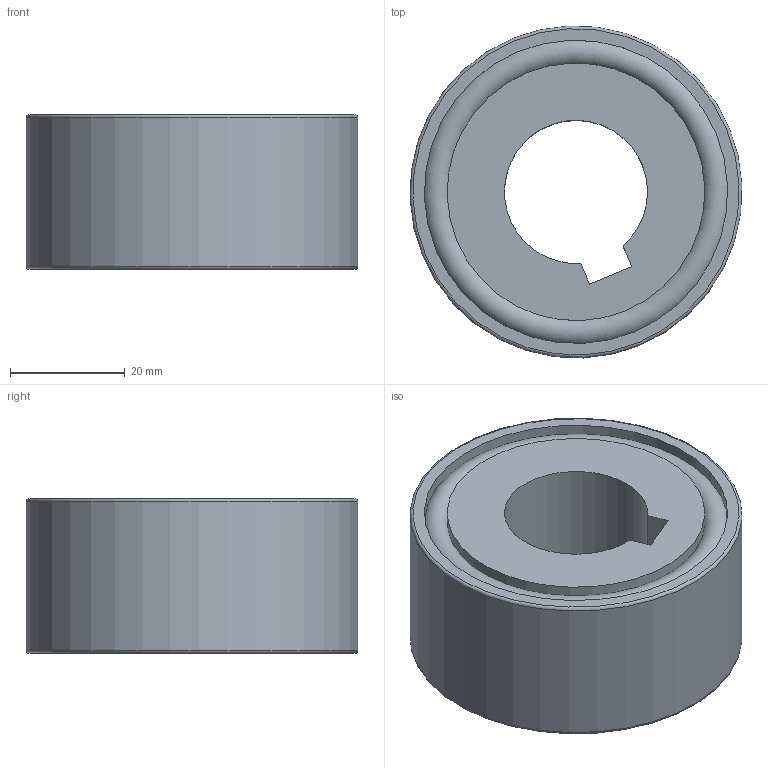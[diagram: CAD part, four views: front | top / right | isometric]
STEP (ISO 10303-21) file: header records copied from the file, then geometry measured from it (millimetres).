
FILE_DESCRIPTION(/* description */ (''),/* implementation_level */ '2;1');
FILE_NAME(/* name */ '300718 FN 453 M.stp',/* time_stamp */ '2016-11-24T16:11:07+01:00',/* author */ (''),/* organization */ (''),/* preprocessor_version */ 'ST-DEVELOPER v15',/* originating_system */ 'SIEMENS PLM Software NX 8.5',/* authorisation */ '');
FILE_SCHEMA (('CONFIG_CONTROL_DESIGN'));
Length unit declared in the file: millimetre
Products named in the file (3): ATE0000080_01; ATE0000131_01; ATE0000132_01
Assembly tree (2 placements, depth 2):
  ATE0000132_01
    ATE0000131_01
    ATE0000080_01
Bounding box: 57.94 x 57.94 x 27 mm (x, y, z)
Volume: 49500 mm3; surface area: 27187.4 mm2
Topology: 3 solids, 3 shells, 73 faces, 162 edges, 107 vertices
Faces by surface type: plane 47, cylinder 22, torus 4
Full cylindrical faces by diameter (mm): 45 x3, 49 x1, 50 x1, 51 x1, 52 x2, 53 x4, 58 x1
Entity records: 2192 total; most frequent: DIRECTION 350, CARTESIAN_POINT 312, ORIENTED_EDGE 272, AXIS2_PLACEMENT_3D 138, EDGE_CURVE 136, EDGE_LOOP 110, VERTEX_POINT 100, LINE 74
